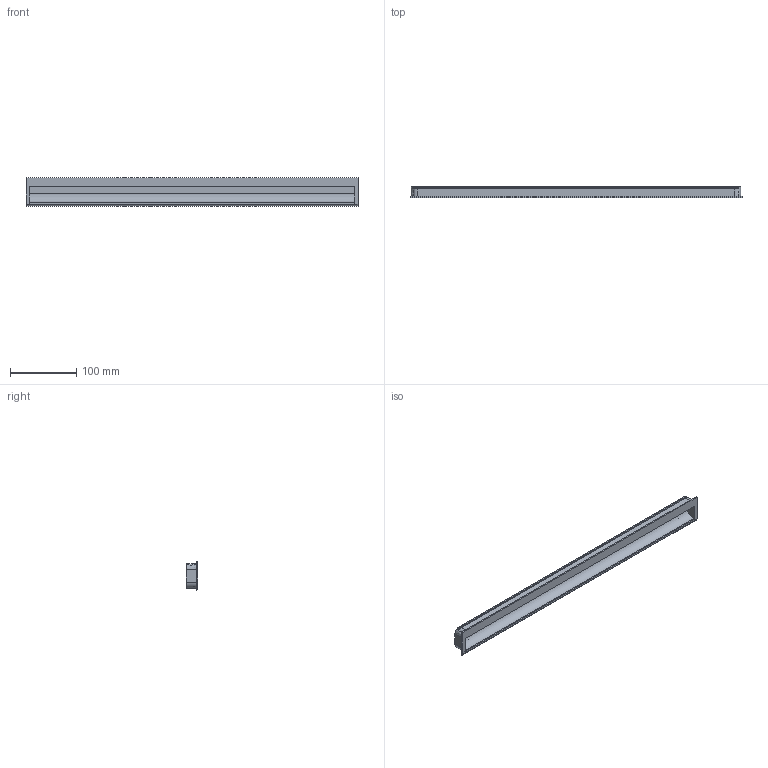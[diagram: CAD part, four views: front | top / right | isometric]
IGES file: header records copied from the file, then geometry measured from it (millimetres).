
Start section: Data from Parasolid IGES Translator 15.0.47, Copyright(c) 2006 Siemens P LM Software. All Rights Reserved.
Global section: file name: 115307.igs; native system:  By UGS Corp.; preprocessor: XPlus GENERIC/IGES 3.0; author: Noname; organization: Noname; date: 20140122.180903; units: millimetre
Bounding box: 500 x 17.5 x 43.25 mm (x, y, z)
Surface area: 82913.1 mm2 (no closed solid volume)
Topology: 0 solids, 0 shells, 33 faces, 168 edges, 166 vertices
Faces by surface type: extrusion 25, revolution 8
